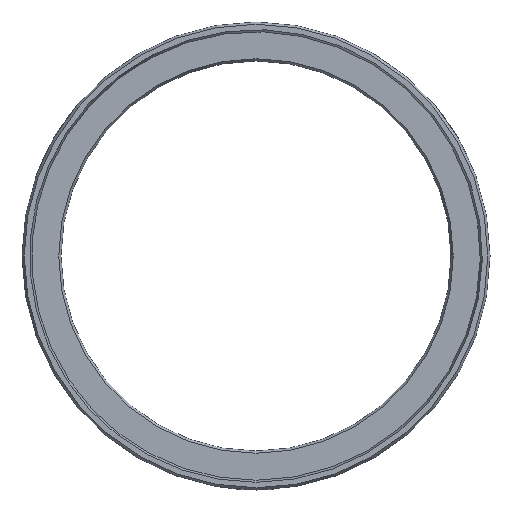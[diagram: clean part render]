
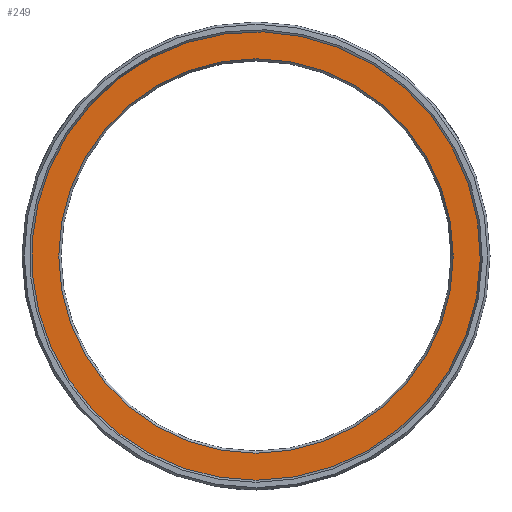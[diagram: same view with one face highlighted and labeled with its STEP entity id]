
A CAD part, left-side view. The second image highlights one B-rep face of the part: STEP entity #249.
In plain terms, the highlighted planar face has unit normal (-1, 0, 0).
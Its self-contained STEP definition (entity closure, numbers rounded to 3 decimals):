
#106=PLANE('',#985);
#249=ADVANCED_FACE('',(#309,#310),#106,.T.);
#309=FACE_BOUND('',#364,.T.);
#310=FACE_BOUND('',#365,.T.);
#364=EDGE_LOOP('',(#571));
#365=EDGE_LOOP('',(#572));
#571=ORIENTED_EDGE('',*,*,#816,.T.);
#572=ORIENTED_EDGE('',*,*,#815,.F.);
#701=VERTEX_POINT('',#1611);
#702=VERTEX_POINT('',#1614);
#815=EDGE_CURVE('',#701,#701,#881,.T.);
#816=EDGE_CURVE('',#702,#702,#882,.T.);
#881=CIRCLE('',#982,57.5);
#882=CIRCLE('',#984,50.577);
#982=AXIS2_PLACEMENT_3D('',#1610,#1195,#1196);
#984=AXIS2_PLACEMENT_3D('',#1613,#1199,#1200);
#985=AXIS2_PLACEMENT_3D('',#1615,#1201,#1202);
#1195=DIRECTION('',(1.,0.,0.));
#1196=DIRECTION('',(0.,0.,-1.));
#1199=DIRECTION('',(1.,0.,0.));
#1200=DIRECTION('',(0.,0.,1.));
#1201=DIRECTION('',(-1.,0.,0.));
#1202=DIRECTION('',(0.,0.,1.));
#1610=CARTESIAN_POINT('',(0.,0.,0.));
#1611=CARTESIAN_POINT('',(0.,0.,-57.5));
#1613=CARTESIAN_POINT('',(0.,0.,0.));
#1614=CARTESIAN_POINT('',(0.,0.,50.577));
#1615=CARTESIAN_POINT('',(0.,57.5,0.));
